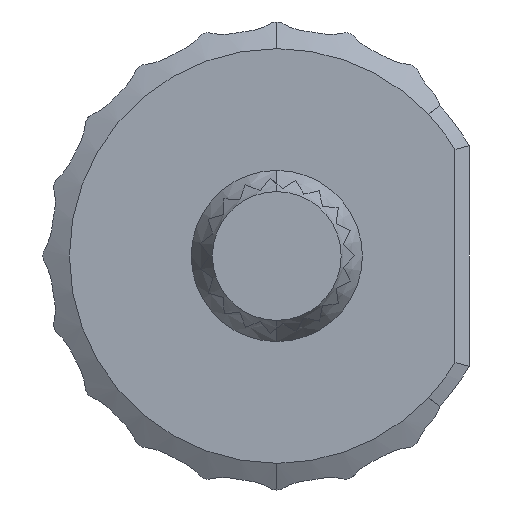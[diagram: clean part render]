
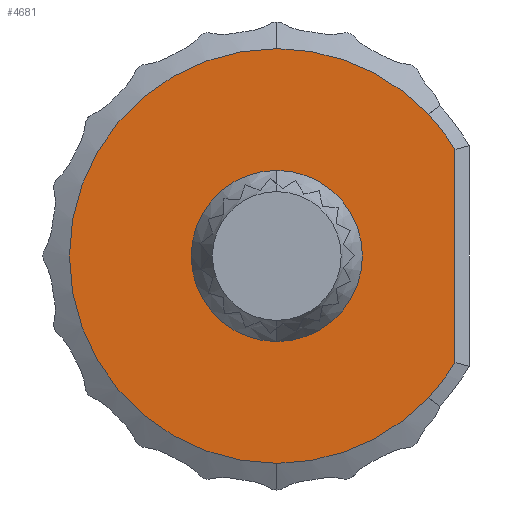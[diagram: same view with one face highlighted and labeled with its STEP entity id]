
A CAD part, left-side view. The second image highlights one B-rep face of the part: STEP entity #4681.
In plain terms, the highlighted planar face has unit normal (-1, 0, 0).
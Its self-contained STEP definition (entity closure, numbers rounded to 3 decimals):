
#80 = VECTOR ( 'NONE', #1303, 1000. ) ;
#371 = CIRCLE ( 'NONE', #7366, 1.775 ) ;
#383 = DIRECTION ( 'NONE',  ( 0., 0.808, -0.589 ) ) ;
#429 = VERTEX_POINT ( 'NONE', #5483 ) ;
#476 = ORIENTED_EDGE ( 'NONE', *, *, #736, .T. ) ;
#552 = CIRCLE ( 'NONE', #3057, 4.3 ) ;
#736 = EDGE_CURVE ( 'NONE', #1033, #429, #4589, .T. ) ;
#801 = DIRECTION ( 'NONE',  ( -1., 0., 0. ) ) ;
#844 = DIRECTION ( 'NONE',  ( 1., 0., 0. ) ) ;
#865 = ORIENTED_EDGE ( 'NONE', *, *, #7105, .T. ) ;
#876 = ORIENTED_EDGE ( 'NONE', *, *, #2212, .T. ) ;
#1033 = VERTEX_POINT ( 'NONE', #4084 ) ;
#1074 = ORIENTED_EDGE ( 'NONE', *, *, #4284, .F. ) ;
#1090 = AXIS2_PLACEMENT_3D ( 'NONE', #2711, #7114, #5254 ) ;
#1188 = VECTOR ( 'NONE', #383, 1000. ) ;
#1203 = CARTESIAN_POINT ( 'NONE',  ( 0., 0., 0. ) ) ;
#1204 = ORIENTED_EDGE ( 'NONE', *, *, #5248, .T. ) ;
#1303 = DIRECTION ( 'NONE',  ( 0., -0.808, -0.589 ) ) ;
#1318 = DIRECTION ( 'NONE',  ( 1., 0., 0. ) ) ;
#1339 = VERTEX_POINT ( 'NONE', #5784 ) ;
#1434 = CARTESIAN_POINT ( 'NONE',  ( 0., -3.14, 2.937 ) ) ;
#1806 = VERTEX_POINT ( 'NONE', #4990 ) ;
#1810 = VERTEX_POINT ( 'NONE', #2269 ) ;
#1827 = ORIENTED_EDGE ( 'NONE', *, *, #6284, .T. ) ;
#1898 = ORIENTED_EDGE ( 'NONE', *, *, #4359, .F. ) ;
#2074 = CIRCLE ( 'NONE', #7621, 4.306 ) ;
#2113 = LINE ( 'NONE', #4310, #80 ) ;
#2116 = CARTESIAN_POINT ( 'NONE',  ( 0., 0., 0. ) ) ;
#2177 = DIRECTION ( 'NONE',  ( 0., 0., 1. ) ) ;
#2193 = CARTESIAN_POINT ( 'NONE',  ( 0., 0., 1.775 ) ) ;
#2194 = EDGE_LOOP ( 'NONE', ( #1204, #476, #876, #4730, #865, #6881, #1898, #1074 ) ) ;
#2212 = EDGE_CURVE ( 'NONE', #429, #5828, #7062, .T. ) ;
#2269 = CARTESIAN_POINT ( 'NONE',  ( 0., 0., 4.3 ) ) ;
#2331 = CARTESIAN_POINT ( 'NONE',  ( 0., -3.696, 2.209 ) ) ;
#2572 = CARTESIAN_POINT ( 'NONE',  ( 0., 0., 0. ) ) ;
#2711 = CARTESIAN_POINT ( 'NONE',  ( 0., 0., 0. ) ) ;
#2822 = FACE_BOUND ( 'NONE', #5000, .T. ) ;
#2915 = DIRECTION ( 'NONE',  ( 1., 0., 0. ) ) ;
#3057 = AXIS2_PLACEMENT_3D ( 'NONE', #7481, #5584, #6862 ) ;
#3190 = CARTESIAN_POINT ( 'NONE',  ( 0., -3.385, 3.115 ) ) ;
#3378 = DIRECTION ( 'NONE',  ( 0., 0., 1. ) ) ;
#3571 = EDGE_CURVE ( 'NONE', #5828, #1339, #2074, .T. ) ;
#3588 = LINE ( 'NONE', #3190, #1188 ) ;
#3692 = CARTESIAN_POINT ( 'NONE',  ( 0., -3.14, -2.937 ) ) ;
#3722 = EDGE_CURVE ( 'NONE', #1810, #6112, #552, .T. ) ;
#3980 = DIRECTION ( 'NONE',  ( 1., 0., 0. ) ) ;
#4084 = CARTESIAN_POINT ( 'NONE',  ( 0., -3.145, -2.941 ) ) ;
#4284 = EDGE_CURVE ( 'NONE', #6214, #6769, #6848, .T. ) ;
#4310 = CARTESIAN_POINT ( 'NONE',  ( 0., -3.385, -3.115 ) ) ;
#4359 = EDGE_CURVE ( 'NONE', #6769, #1810, #5683, .T. ) ;
#4589 = CIRCLE ( 'NONE', #1090, 4.306 ) ;
#4628 = AXIS2_PLACEMENT_3D ( 'NONE', #2116, #7148, #3378 ) ;
#4678 = CARTESIAN_POINT ( 'NONE',  ( 0., 0., 0. ) ) ;
#4681 = ADVANCED_FACE ( 'NONE', ( #7850, #2822 ), #5262, .T. ) ;
#4730 = ORIENTED_EDGE ( 'NONE', *, *, #3571, .T. ) ;
#4846 = AXIS2_PLACEMENT_3D ( 'NONE', #1203, #844, #5695 ) ;
#4930 = CARTESIAN_POINT ( 'NONE',  ( 0., -3.696, 0. ) ) ;
#4990 = CARTESIAN_POINT ( 'NONE',  ( 0., 0., -1.775 ) ) ;
#4998 = CARTESIAN_POINT ( 'NONE',  ( 0., 0., -4.3 ) ) ;
#5000 = EDGE_LOOP ( 'NONE', ( #1827, #7538 ) ) ;
#5248 = EDGE_CURVE ( 'NONE', #6214, #1033, #2113, .T. ) ;
#5254 = DIRECTION ( 'NONE',  ( 0., 0., 1. ) ) ;
#5262 = PLANE ( 'NONE',  #4628 ) ;
#5293 = CARTESIAN_POINT ( 'NONE',  ( 0., 0., 0. ) ) ;
#5483 = CARTESIAN_POINT ( 'NONE',  ( 0., -3.696, -2.209 ) ) ;
#5584 = DIRECTION ( 'NONE',  ( 1., 0., 0. ) ) ;
#5683 = CIRCLE ( 'NONE', #6152, 4.3 ) ;
#5695 = DIRECTION ( 'NONE',  ( 0., 0., -1. ) ) ;
#5721 = VERTEX_POINT ( 'NONE', #2193 ) ;
#5784 = CARTESIAN_POINT ( 'NONE',  ( 0., -3.145, 2.941 ) ) ;
#5828 = VERTEX_POINT ( 'NONE', #2331 ) ;
#5926 = EDGE_CURVE ( 'NONE', #1806, #5721, #371, .T. ) ;
#6112 = VERTEX_POINT ( 'NONE', #1434 ) ;
#6152 = AXIS2_PLACEMENT_3D ( 'NONE', #4678, #3980, #6634 ) ;
#6214 = VERTEX_POINT ( 'NONE', #3692 ) ;
#6234 = VECTOR ( 'NONE', #6724, 1000. ) ;
#6284 = EDGE_CURVE ( 'NONE', #5721, #1806, #8136, .T. ) ;
#6319 = AXIS2_PLACEMENT_3D ( 'NONE', #5293, #1318, #7678 ) ;
#6372 = CARTESIAN_POINT ( 'NONE',  ( 0., 0., 0. ) ) ;
#6634 = DIRECTION ( 'NONE',  ( 0., 0., -1. ) ) ;
#6724 = DIRECTION ( 'NONE',  ( 0., 0., 1. ) ) ;
#6769 = VERTEX_POINT ( 'NONE', #4998 ) ;
#6848 = CIRCLE ( 'NONE', #4846, 4.3 ) ;
#6862 = DIRECTION ( 'NONE',  ( 0., 0., -1. ) ) ;
#6881 = ORIENTED_EDGE ( 'NONE', *, *, #3722, .F. ) ;
#6984 = DIRECTION ( 'NONE',  ( 0., 0., 1. ) ) ;
#7062 = LINE ( 'NONE', #4930, #6234 ) ;
#7105 = EDGE_CURVE ( 'NONE', #1339, #6112, #3588, .T. ) ;
#7114 = DIRECTION ( 'NONE',  ( -1., 0., 0. ) ) ;
#7148 = DIRECTION ( 'NONE',  ( -1., 0., 0. ) ) ;
#7366 = AXIS2_PLACEMENT_3D ( 'NONE', #2572, #2915, #2177 ) ;
#7481 = CARTESIAN_POINT ( 'NONE',  ( 0., 0., 0. ) ) ;
#7538 = ORIENTED_EDGE ( 'NONE', *, *, #5926, .T. ) ;
#7621 = AXIS2_PLACEMENT_3D ( 'NONE', #6372, #801, #6984 ) ;
#7678 = DIRECTION ( 'NONE',  ( 0., 0., 1. ) ) ;
#7850 = FACE_OUTER_BOUND ( 'NONE', #2194, .T. ) ;
#8136 = CIRCLE ( 'NONE', #6319, 1.775 ) ;
